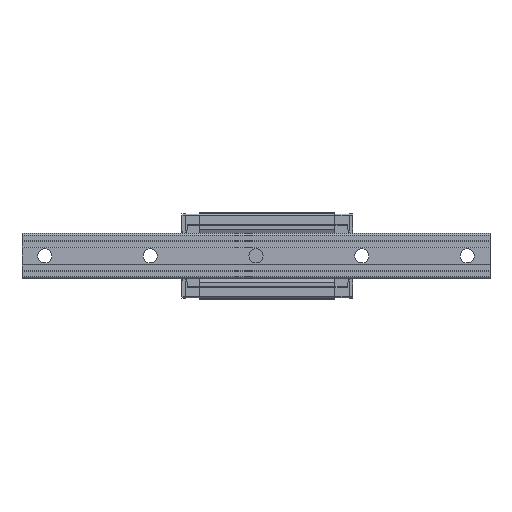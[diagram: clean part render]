
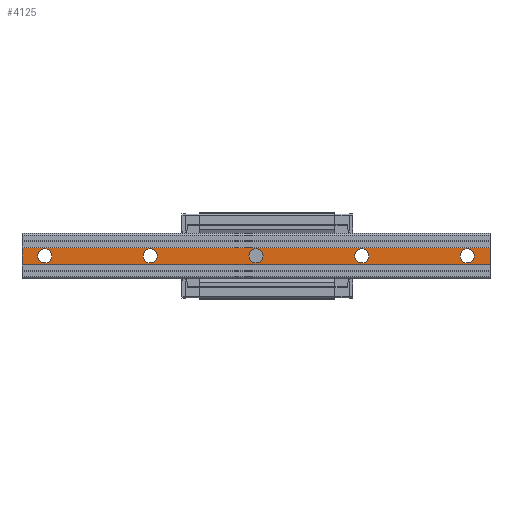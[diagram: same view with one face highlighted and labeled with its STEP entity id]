
A CAD part, front view. The second image highlights one B-rep face of the part: STEP entity #4125.
In plain terms, the highlighted planar face has unit normal (0, -1, 0).
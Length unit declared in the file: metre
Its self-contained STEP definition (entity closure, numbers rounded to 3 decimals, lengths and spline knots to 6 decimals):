
#4125 = ADVANCED_FACE( '', ( #8605, #8606, #8607, #8608, #8609, #8610 ), #8611, .F. );
#8605 = FACE_OUTER_BOUND( '', #18132, .T. );
#8606 = FACE_BOUND( '', #18133, .T. );
#8607 = FACE_BOUND( '', #18134, .T. );
#8608 = FACE_BOUND( '', #18135, .T. );
#8609 = FACE_BOUND( '', #18136, .T. );
#8610 = FACE_BOUND( '', #18137, .T. );
#8611 = PLANE( '', #18138 );
#18132 = EDGE_LOOP( '', ( #32645, #32646, #32647, #32648 ) );
#18133 = EDGE_LOOP( '', ( #32649 ) );
#18134 = EDGE_LOOP( '', ( #32650 ) );
#18135 = EDGE_LOOP( '', ( #32651 ) );
#18136 = EDGE_LOOP( '', ( #32652 ) );
#18137 = EDGE_LOOP( '', ( #32653 ) );
#18138 = AXIS2_PLACEMENT_3D( '', #32654, #32655, #32656 );
#32645 = ORIENTED_EDGE( '', *, *, #40353, .T. );
#32646 = ORIENTED_EDGE( '', *, *, #40354, .T. );
#32647 = ORIENTED_EDGE( '', *, *, #38273, .F. );
#32648 = ORIENTED_EDGE( '', *, *, #35522, .F. );
#32649 = ORIENTED_EDGE( '', *, *, #39530, .T. );
#32650 = ORIENTED_EDGE( '', *, *, #39833, .T. );
#32651 = ORIENTED_EDGE( '', *, *, #39296, .T. );
#32652 = ORIENTED_EDGE( '', *, *, #40355, .T. );
#32653 = ORIENTED_EDGE( '', *, *, #36051, .T. );
#32654 = CARTESIAN_POINT( '', ( 0.465, 0., -0.0083 ) );
#32655 = DIRECTION( '', ( 0., 1., 0. ) );
#32656 = DIRECTION( '', ( 1., 0., 0. ) );
#35522 = EDGE_CURVE( '', #41644, #41646, #41647, .T. );
#36051 = EDGE_CURVE( '', #42591, #42591, #42592, .T. );
#38273 = EDGE_CURVE( '', #41646, #46157, #46158, .T. );
#39296 = EDGE_CURVE( '', #47578, #47578, #47579, .T. );
#39530 = EDGE_CURVE( '', #47877, #47877, #47878, .T. );
#39833 = EDGE_CURVE( '', #48251, #48251, #48252, .T. );
#40353 = EDGE_CURVE( '', #41644, #48850, #48851, .T. );
#40354 = EDGE_CURVE( '', #48850, #46157, #48852, .T. );
#40355 = EDGE_CURVE( '', #48853, #48853, #48854, .T. );
#41644 = VERTEX_POINT( '', #50882 );
#41646 = VERTEX_POINT( '', #50885 );
#41647 = LINE( '', #50886, #50887 );
#42591 = VERTEX_POINT( '', #52937 );
#42592 = CIRCLE( '', #52938, 0.007 );
#46157 = VERTEX_POINT( '', #60640 );
#46158 = LINE( '', #60641, #60642 );
#47578 = VERTEX_POINT( '', #63684 );
#47579 = CIRCLE( '', #63685, 0.007 );
#47877 = VERTEX_POINT( '', #64313 );
#47878 = CIRCLE( '', #64314, 0.007 );
#48251 = VERTEX_POINT( '', #65308 );
#48252 = CIRCLE( '', #65309, 0.007 );
#48850 = VERTEX_POINT( '', #66623 );
#48851 = LINE( '', #66624, #66625 );
#48852 = LINE( '', #66626, #66627 );
#48853 = VERTEX_POINT( '', #66628 );
#48854 = CIRCLE( '', #66629, 0.007 );
#50882 = CARTESIAN_POINT( '', ( 0.465, 0., 0.0083 ) );
#50885 = CARTESIAN_POINT( '', ( 0.465, 0., -0.0083 ) );
#50886 = CARTESIAN_POINT( '', ( 0.465, 0., -0.0083 ) );
#50887 = VECTOR( '', #67798, 1. );
#52937 = CARTESIAN_POINT( '', ( 0.3375, 0., -0.00692 ) );
#52938 = AXIS2_PLACEMENT_3D( '', #68250, #68251, #68252 );
#60640 = CARTESIAN_POINT( '', ( 0., 0., -0.0083 ) );
#60641 = CARTESIAN_POINT( '', ( 0.465, 0., -0.0083 ) );
#60642 = VECTOR( '', #70309, 1. );
#63684 = CARTESIAN_POINT( '', ( 0.1275, 0., -0.00692 ) );
#63685 = AXIS2_PLACEMENT_3D( '', #71217, #71218, #71219 );
#64313 = CARTESIAN_POINT( '', ( 0.4425, 0., -0.00692 ) );
#64314 = AXIS2_PLACEMENT_3D( '', #71416, #71417, #71418 );
#65308 = CARTESIAN_POINT( '', ( 0.2325, 0., -0.00692 ) );
#65309 = AXIS2_PLACEMENT_3D( '', #71602, #71603, #71604 );
#66623 = CARTESIAN_POINT( '', ( 0., 0., 0.0083 ) );
#66624 = CARTESIAN_POINT( '', ( 0.465, 0., 0.0083 ) );
#66625 = VECTOR( '', #71940, 1. );
#66626 = CARTESIAN_POINT( '', ( 0., 0., -0.0083 ) );
#66627 = VECTOR( '', #71941, 1. );
#66628 = CARTESIAN_POINT( '', ( 0.0225, 0., -0.00692 ) );
#66629 = AXIS2_PLACEMENT_3D( '', #71942, #71943, #71944 );
#67798 = DIRECTION( '', ( 0., 0., -1. ) );
#68250 = CARTESIAN_POINT( '', ( 0.3375, 0., 0.00008 ) );
#68251 = DIRECTION( '', ( 0., 1., 0. ) );
#68252 = DIRECTION( '', ( 0., 0., -1. ) );
#70309 = DIRECTION( '', ( -1., 0., 0. ) );
#71217 = CARTESIAN_POINT( '', ( 0.1275, 0., 0.00008 ) );
#71218 = DIRECTION( '', ( 0., 1., 0. ) );
#71219 = DIRECTION( '', ( 0., 0., -1. ) );
#71416 = CARTESIAN_POINT( '', ( 0.4425, 0., 0.00008 ) );
#71417 = DIRECTION( '', ( 0., 1., 0. ) );
#71418 = DIRECTION( '', ( 0., 0., -1. ) );
#71602 = CARTESIAN_POINT( '', ( 0.2325, 0., 0.00008 ) );
#71603 = DIRECTION( '', ( 0., 1., 0. ) );
#71604 = DIRECTION( '', ( 0., 0., -1. ) );
#71940 = DIRECTION( '', ( -1., 0., 0. ) );
#71941 = DIRECTION( '', ( 0., 0., -1. ) );
#71942 = CARTESIAN_POINT( '', ( 0.0225, 0., 0.00008 ) );
#71943 = DIRECTION( '', ( 0., 1., 0. ) );
#71944 = DIRECTION( '', ( 0., 0., -1. ) );
